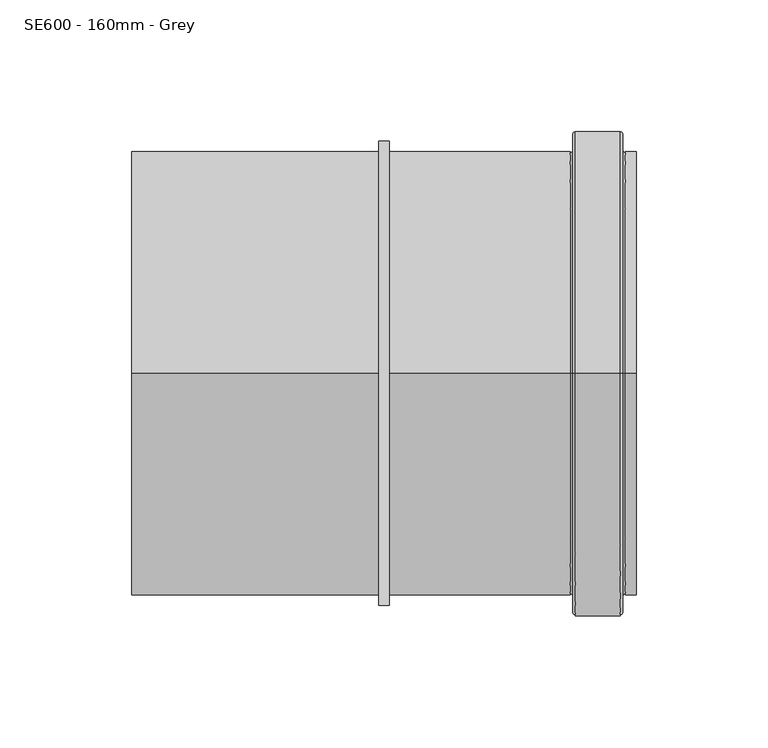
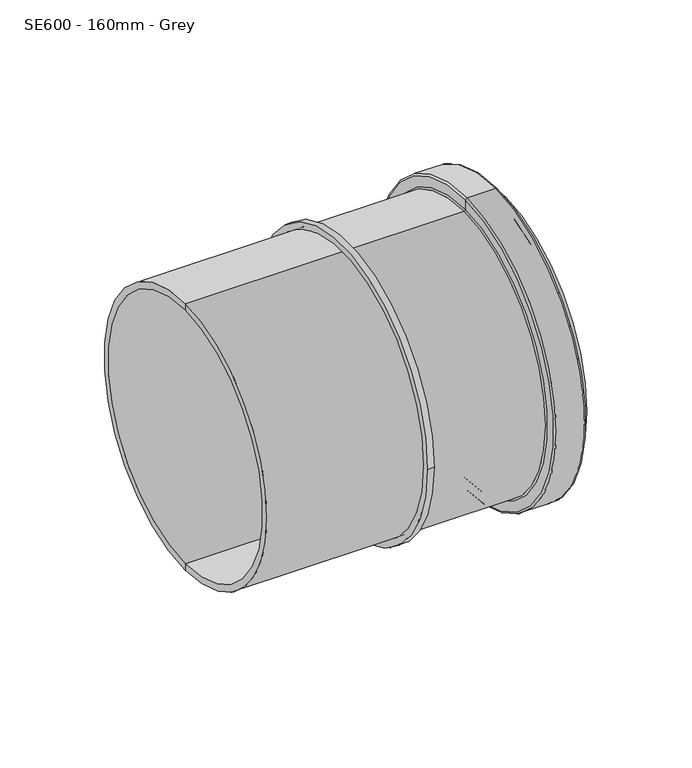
"""IFC4 building model written with IfcOpenShell, lengths in millimetres: pipe fitting geometry, MarleyPlumbingAndDrainage_PipeFitting_LoosePipeSocket : SE600 - 160mm - Grey."""

from ifc_helpers import new_model, si_unit, point, frame, origin, origin_2d, place, context, project, spatial, polyline, circle_curve, ellipse_curve, trimmed, segment, composite_curve, outline, extrude, source, transform, mapped, element, save
from ifc_brep_helpers import plane_surface, cylinder_surface, revolved_surface, advanced_brep


def se600_160mm_grey_09d1665f(model_context):
    return source(origin(), model_context, "Body", "SolidModel", [
        extrude(outline(composite_curve([segment(trimmed(circle_curve(origin_2d(), 88.0), [point((-88.0, 0.0))], [point((88.0, 0.0))], False, "CARTESIAN"), True, "CONTINUOUS"), segment(trimmed(circle_curve(origin_2d(), 88.0), [point((88.0, 0.0))], [point((-88.0, 0.0))], False, "CARTESIAN"), True, "CONTINUOUS")], self_intersect=False), holes=[composite_curve([segment(trimmed(circle_curve(origin_2d(), 84.0), [point((-84.0, 0.0))], [point((84.0, 0.0))], True, "CARTESIAN"), True, "CONTINUOUS"), segment(trimmed(circle_curve(origin_2d(), 84.0), [point((84.0, 0.0))], [point((-84.0, 0.0))], True, "CARTESIAN"), True, "CONTINUOUS")], self_intersect=False)]), frame((-16.8253818, 0.0, 0.0), z_axis=(1.0, 0.0, 0.0), x_axis=(0.0, 1.0, 0.0)), (0.0, 0.0, 1.0), 4.0),
        advanced_brep(
        [(-110.3253818, 0.0, -84.0), (-110.3253818, 0.0, 84.0), (55.6746182, 0.0, 84.0), (55.6746182, 0.0, -84.0), (-110.3253818, 0.0, -80.0), (-110.3253818, 0.0, 80.0), (80.6746182, 0.0, -80.0), (80.6746182, 0.0, 80.0), (-17.8253818, 0.0, 80.0), (-17.8253818, 0.0, -80.0), (80.6746182, 0.0, -84.0), (80.6746182, 0.0, 84.0), (-33.3253818, 0.0, -80.0), (-33.3253818, 0.0, 80.0), (-33.3253818, 0.0, 0.0), (-17.8253818, 0.0, 0.0), (76.6746182, 0.0, -84.0), (76.6746182, 0.0, 84.0), (75.6746182, 0.0, -85.0), (75.6746182, 0.0, 85.0), (75.6746182, 0.0, -91.0), (75.6746182, 0.0, 91.0), (74.6746182, 0.0, -92.0), (74.6746182, 0.0, 92.0), (57.6746182, 0.0, -92.0), (57.6746182, 0.0, 92.0), (56.6746182, 0.0, -91.0), (56.6746182, 0.0, 91.0), (56.6746182, 0.0, -85.0), (56.6746182, 0.0, 85.0)],
        [
            (0, 1, circle_curve(frame((-110.3253818, 0.0, 0.0), z_axis=(1.0, 0.0, 0.0), x_axis=(0.0, 0.0, 1.0)), 84.0)),
            (1, 2),
            (2, 3, circle_curve(frame((55.6746182, 0.0, 0.0), z_axis=(-1.0, 0.0, 0.0), x_axis=(0.0, 0.0, 1.0)), 84.0)),
            (3, 0),
            (1, 0, circle_curve(frame((-110.3253818, 0.0, 0.0), z_axis=(1.0, 0.0, 0.0), x_axis=(0.0, 0.0, 1.0)), 84.0)),
            (3, 2, circle_curve(frame((55.6746182, 0.0, 0.0), z_axis=(-1.0, 0.0, 0.0), x_axis=(0.0, 0.0, 1.0)), 84.0)),
            (4, 5, circle_curve(frame((-110.3253818, 0.0, 0.0), z_axis=(1.0, 0.0, 0.0), x_axis=(0.0, 0.0, 1.0)), 80.0)),
            (5, 1),
            (0, 4),
            (5, 4, circle_curve(frame((-110.3253818, 0.0, 0.0), z_axis=(1.0, 0.0, 0.0), x_axis=(0.0, 0.0, 1.0)), 80.0)),
            (6, 7, circle_curve(frame((80.6746182, 0.0, 0.0), z_axis=(1.0, 0.0, 0.0), x_axis=(0.0, 0.0, 1.0)), 80.0)),
            (7, 8),
            (8, 9, circle_curve(frame((-17.8253818, 0.0, 0.0), z_axis=(-1.0, 0.0, 0.0), x_axis=(0.0, 0.0, 1.0)), 80.0)),
            (9, 6),
            (7, 6, circle_curve(frame((80.6746182, 0.0, 0.0), z_axis=(1.0, 0.0, 0.0), x_axis=(0.0, 0.0, 1.0)), 80.0)),
            (9, 8, circle_curve(frame((-17.8253818, 0.0, 0.0), z_axis=(-1.0, 0.0, 0.0), x_axis=(0.0, 0.0, 1.0)), 80.0)),
            (10, 11, circle_curve(frame((80.6746182, 0.0, 0.0), z_axis=(1.0, 0.0, 0.0), x_axis=(0.0, 0.0, 1.0)), 84.0)),
            (11, 7),
            (6, 10),
            (11, 10, circle_curve(frame((80.6746182, 0.0, 0.0), z_axis=(1.0, 0.0, 0.0), x_axis=(0.0, 0.0, 1.0)), 84.0)),
            (12, 13, circle_curve(frame((-33.3253818, 0.0, 0.0), z_axis=(1.0, 0.0, 0.0), x_axis=(0.0, 0.0, 1.0)), 80.0)),
            (13, 5),
            (4, 12),
            (13, 12, circle_curve(frame((-33.3253818, 0.0, 0.0), z_axis=(1.0, 0.0, 0.0), x_axis=(0.0, 0.0, 1.0)), 80.0)),
            (14, 13),
            (12, 14),
            (8, 15),
            (15, 9),
            (16, 17, circle_curve(frame((76.6746182, 0.0, 0.0), z_axis=(1.0, 0.0, 0.0), x_axis=(0.0, 0.0, 1.0)), 84.0)),
            (17, 11),
            (10, 16),
            (17, 16, circle_curve(frame((76.6746182, 0.0, 0.0), z_axis=(1.0, 0.0, 0.0), x_axis=(0.0, 0.0, 1.0)), 84.0)),
            (18, 19, circle_curve(frame((75.6746182, 0.0, 0.0), z_axis=(1.0, 0.0, 0.0), x_axis=(0.0, 0.0, 1.0)), 85.0)),
            (19, 17, circle_curve(frame((76.6746182, 0.0, 85.0), z_axis=(0.0, -1.0, 0.0), x_axis=(1.0, 0.0, 0.0)), 1.0)),
            (16, 18, circle_curve(frame((76.6746182, 0.0, -85.0), z_axis=(0.0, -1.0, 0.0), x_axis=(1.0, 0.0, 0.0)), 1.0)),
            (19, 18, circle_curve(frame((75.6746182, 0.0, 0.0), z_axis=(1.0, 0.0, 0.0), x_axis=(0.0, 0.0, 1.0)), 85.0)),
            (20, 21, circle_curve(frame((75.6746182, 0.0, 0.0), z_axis=(1.0, 0.0, 0.0), x_axis=(0.0, 0.0, 1.0)), 91.0)),
            (21, 19),
            (18, 20),
            (21, 20, circle_curve(frame((75.6746182, 0.0, 0.0), z_axis=(1.0, 0.0, 0.0), x_axis=(0.0, 0.0, 1.0)), 91.0)),
            (22, 23, circle_curve(frame((74.6746182, 0.0, 0.0), z_axis=(1.0, 0.0, 0.0), x_axis=(0.0, 0.0, 1.0)), 92.0)),
            (23, 21, circle_curve(frame((74.6746182, 0.0, 91.0), z_axis=(0.0, 1.0, 0.0), x_axis=(1.0, 0.0, 0.0)), 1.0)),
            (20, 22, circle_curve(frame((74.6746182, 0.0, -91.0), z_axis=(0.0, 1.0, 0.0), x_axis=(1.0, 0.0, 0.0)), 1.0)),
            (23, 22, circle_curve(frame((74.6746182, 0.0, 0.0), z_axis=(1.0, 0.0, 0.0), x_axis=(0.0, 0.0, 1.0)), 92.0)),
            (24, 25, circle_curve(frame((57.6746182, 0.0, 0.0), z_axis=(1.0, 0.0, 0.0), x_axis=(0.0, 0.0, 1.0)), 92.0)),
            (25, 23),
            (22, 24),
            (25, 24, circle_curve(frame((57.6746182, 0.0, 0.0), z_axis=(1.0, 0.0, 0.0), x_axis=(0.0, 0.0, 1.0)), 92.0)),
            (26, 27, circle_curve(frame((56.6746182, 0.0, 0.0), z_axis=(1.0, 0.0, 0.0), x_axis=(0.0, 0.0, 1.0)), 91.0)),
            (27, 25, circle_curve(frame((57.6746182, 0.0, 91.0), z_axis=(0.0, 1.0, 0.0), x_axis=(1.0, 0.0, 0.0)), 1.0)),
            (24, 26, circle_curve(frame((57.6746182, 0.0, -91.0), z_axis=(0.0, 1.0, 0.0), x_axis=(1.0, 0.0, 0.0)), 1.0)),
            (27, 26, circle_curve(frame((56.6746182, 0.0, 0.0), z_axis=(1.0, 0.0, 0.0), x_axis=(0.0, 0.0, 1.0)), 91.0)),
            (28, 29, circle_curve(frame((56.6746182, 0.0, 0.0), z_axis=(1.0, 0.0, 0.0), x_axis=(0.0, 0.0, 1.0)), 85.0)),
            (29, 27),
            (26, 28),
            (29, 28, circle_curve(frame((56.6746182, 0.0, 0.0), z_axis=(1.0, 0.0, 0.0), x_axis=(0.0, 0.0, 1.0)), 85.0)),
            (2, 29, circle_curve(frame((55.6746182, 0.0, 85.0), z_axis=(0.0, -1.0, 0.0), x_axis=(1.0, 0.0, 0.0)), 1.0)),
            (28, 3, circle_curve(frame((55.6746182, 0.0, -85.0), z_axis=(0.0, -1.0, 0.0), x_axis=(1.0, 0.0, 0.0)), 1.0)),
        ],
        [
            cylinder_surface(frame((-1248.2325039, 0.0, 0.0), z_axis=(-1.0, 0.0, 0.0), x_axis=(0.0, 0.0, 1.0)), 84.0),
            plane_surface(frame((-110.3253818, 0.0, 0.0), z_axis=(-1.0, 0.0, 0.0), x_axis=(0.0, 0.0, 1.0))),
            revolved_surface(polyline([(-17.82538180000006, 0.0, 80.0), (80.67461819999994, 0.0, 80.0)]), (-1248.2325039, 0.0, 0.0), (-1.0, 0.0, 0.0)),
            plane_surface(frame((80.6746182, 0.0, 0.0), z_axis=(1.0, 0.0, 0.0), x_axis=(0.0, 0.0, 1.0))),
            revolved_surface(polyline([(-110.32538180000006, 0.0, 80.0), (-33.32538180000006, 0.0, 80.0)]), (-1248.2325039, 0.0, 0.0), (-1.0, 0.0, 0.0)),
            plane_surface(frame((-33.3253818, 0.0, 0.0), z_axis=(-1.0, 0.0, 0.0), x_axis=(0.0, 0.0, 1.0))),
            plane_surface(frame((-17.8253818, 0.0, 0.0), z_axis=(1.0, 0.0, 0.0), x_axis=(0.0, 0.0, 1.0))),
            revolved_surface(trimmed(ellipse_curve(frame((76.6746182, 0.0, 85.0), z_axis=(0.0, 1.0, 0.0), x_axis=(1.0, 0.0, 0.0)), 1.0, 1.0), [point((76.6746182, 0.0, 84.0))], [point((75.6746182, 0.0, 85.0))], True, "CARTESIAN"), (-1248.2325039, 0.0, 0.0), (-1.0, 0.0, 0.0)),
            plane_surface(frame((75.6746182, 0.0, 0.0), z_axis=(1.0, 0.0, 0.0), x_axis=(0.0, 0.0, 1.0))),
            revolved_surface(trimmed(ellipse_curve(frame((74.6746182, 0.0, 91.0), z_axis=(0.0, -1.0, 0.0), x_axis=(1.0, 0.0, 0.0)), 1.0, 1.0), [point((75.6746182, 0.0, 91.0))], [point((74.6746182, 0.0, 92.0))], True, "CARTESIAN"), (-1248.2325039, 0.0, 0.0), (-1.0, 0.0, 0.0)),
            cylinder_surface(frame((-1248.2325039, 0.0, 0.0), z_axis=(-1.0, 0.0, 0.0), x_axis=(0.0, 0.0, 1.0)), 92.0),
            revolved_surface(trimmed(ellipse_curve(frame((57.6746182, 0.0, 91.0), z_axis=(0.0, -1.0, 0.0), x_axis=(1.0, 0.0, 0.0)), 1.0, 1.0), [point((57.6746182, 0.0, 92.0))], [point((56.6746182, 0.0, 91.0))], True, "CARTESIAN"), (-1248.2325039, 0.0, 0.0), (-1.0, 0.0, 0.0)),
            plane_surface(frame((56.6746182, 0.0, 0.0), z_axis=(-1.0, 0.0, 0.0), x_axis=(0.0, 0.0, 1.0))),
            revolved_surface(trimmed(ellipse_curve(frame((55.6746182, 0.0, 85.0), z_axis=(0.0, 1.0, 0.0), x_axis=(1.0, 0.0, 0.0)), 1.0, 1.0), [point((56.6746182, 0.0, 85.0))], [point((55.6746182, 0.0, 84.0))], True, "CARTESIAN"), (-1248.2325039, 0.0, 0.0), (-1.0, 0.0, 0.0)),
        ],
        [
            (0, [[1, 2, 3, 4]]),
            (0, [[5, -4, 6, -2]]),
            (1, [[7, 8, -1, 9]]),
            (1, [[10, -9, -5, -8]]),
            (2, [[11, 12, 13, 14]]),
            (2, [[15, -14, 16, -12]]),
            (3, [[17, 18, -11, 19]]),
            (3, [[20, -19, -15, -18]]),
            (4, [[21, 22, -7, 23]]),
            (4, [[24, -23, -10, -22]]),
            (5, [[25, -21, 26]]),
            (5, [[-26, -24, -25]]),
            (6, [[-13, 27, 28]]),
            (6, [[-16, -28, -27]]),
            (0, [[29, 30, -17, 31]]),
            (0, [[32, -31, -20, -30]]),
            (7, [[33, 34, -29, 35]]),
            (7, [[36, -35, -32, -34]]),
            (8, [[37, 38, -33, 39]]),
            (8, [[40, -39, -36, -38]]),
            (9, [[41, 42, -37, 43]]),
            (9, [[44, -43, -40, -42]]),
            (10, [[45, 46, -41, 47]]),
            (10, [[48, -47, -44, -46]]),
            (11, [[49, 50, -45, 51]]),
            (11, [[52, -51, -48, -50]]),
            (12, [[53, 54, -49, 55]]),
            (12, [[56, -55, -52, -54]]),
            (13, [[-3, 57, -53, 58]]),
            (13, [[-6, -58, -56, -57]]),
        ],
    ),
    ])


if __name__ == "__main__":
    model = new_model("IFC4")
    model_context = context("Model", 3, world=origin())
    ifc_project = project(units=[si_unit("LENGTHUNIT", "METRE", prefix="MILLI")], contexts=[model_context])
    site = spatial("IfcSite", under=ifc_project)
    building = spatial("IfcBuilding", under=site)
    placement = place(None, origin())
    se600_160mm_grey_shape = se600_160mm_grey_09d1665f(model_context)
    element("IfcPipeFitting", 1, ObjectType="MarleyPlumbingAndDrainage_PipeFitting_LoosePipeSocket : SE600 - 160mm - Grey", at=placement, inside=building, context=model_context, shape_type="MappedRepresentation", body=[
        mapped(se600_160mm_grey_shape, transform((0.0, 0.0, 0.0), x_axis=(1.0, 0.0, 0.0), y_axis=(0.0, 1.0, 0.0), z_axis=(0.0, 0.0, 1.0))),
    ])
    save(model, "model.ifc")
